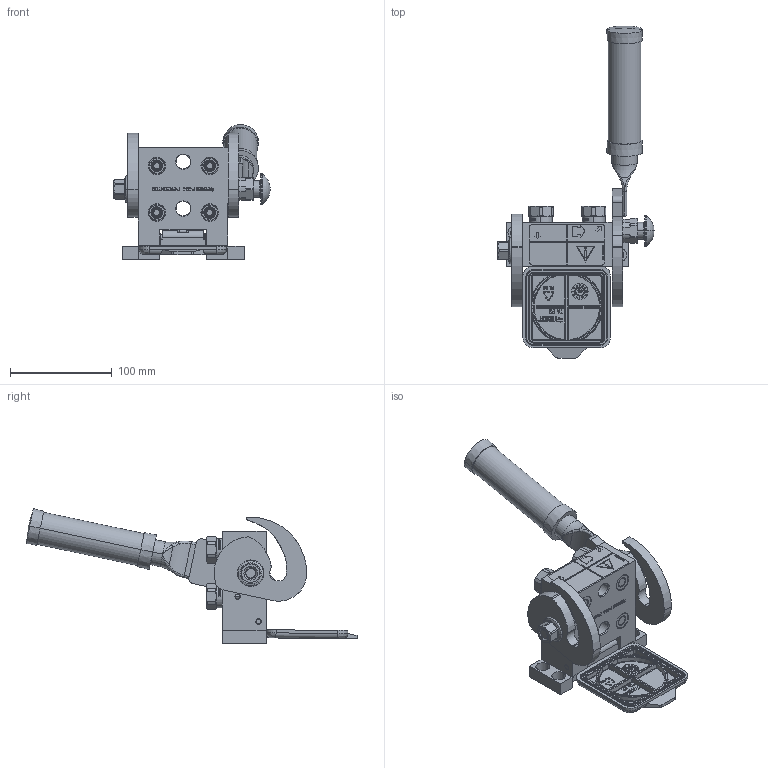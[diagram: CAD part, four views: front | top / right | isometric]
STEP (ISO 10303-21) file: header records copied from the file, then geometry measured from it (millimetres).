
FILE_DESCRIPTION((''),'2;1');
FILE_NAME('2P404-4-14G_F_C','2014-12-09T',('mchiodi'),(''),'PRO/ENGINEER BY PARAMETRIC TECHNOLOGY CORPORATION, 2013320','PRO/ENGINEER BY PARAMETRIC TECHNOLOGY CORPORATION, 2013320','');
FILE_SCHEMA(('CONFIG_CONTROL_DESIGN'));
Length unit declared in the file: millimetre
Products named in the file (1): 2P404-4-14G_F_C
Bounding box: 153.6 x 326.04 x 132.48 mm (x, y, z)
Surface area: 165481.1 mm2 (no closed solid volume)
Topology: 0 solids, 202 shells, 1219 faces, 7139 edges, 6120 vertices
Faces by surface type: plane 464, cylinder 358, cone 175, torus 145, bspline 64, sphere 8, extrusion 5
Entity records: 87009 total; most frequent: CARTESIAN_POINT 33598, DIRECTION 10585, ORIENTED_EDGE 9343, EDGE_CURVE 7131, VERTEX_POINT 6120, VECTOR 4741, LINE 4736, AXIS2_PLACEMENT_3D 2922
